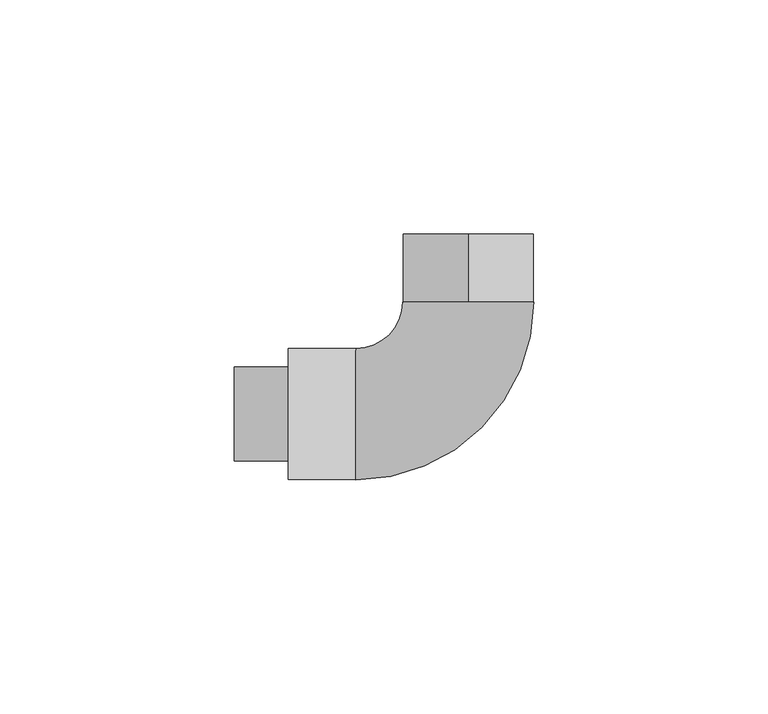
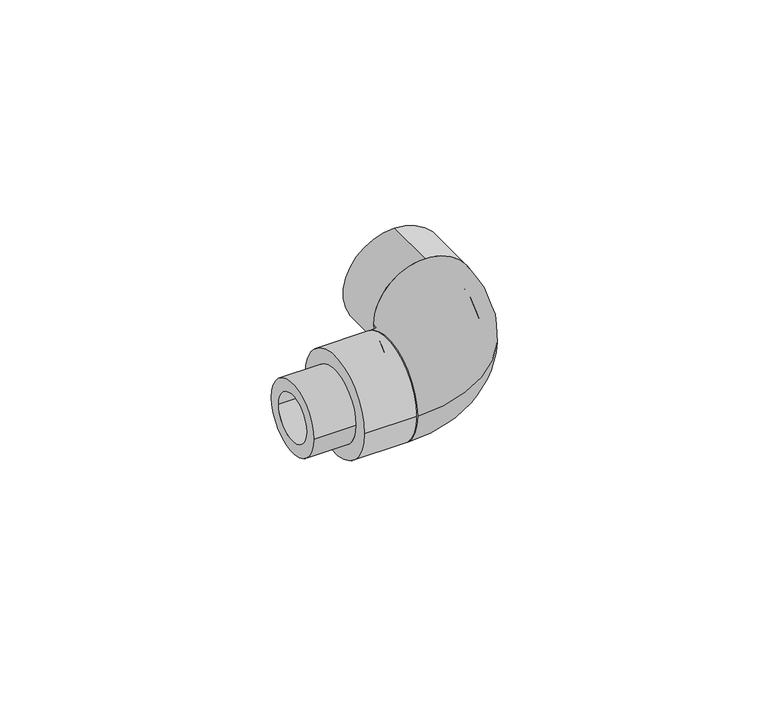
"""IFC4 building model written with IfcOpenShell, lengths in millimetres: pipe fitting geometry, 39_Угольник переходной ВР НР : Серый цвет."""

import ifcopenshell
import ifcopenshell.guid

model = None  # the IFC model being written
_history = None  # IfcOwnerHistory: only IFC2X3 demands one
_inside = {}  # id of a spatial element -> (the spatial element, [elements in it])
_under = {}  # id of a project, library or spatial element -> (it, [spatial elements below it])
_declared = {}  # id of a project -> (the project, [libraries it declares])
_typed = {}  # id of a type object -> (the type object, [elements of that type])
_made_of = {}  # id of a material, layer set ... -> (it, [elements and type objects made of it])


def new_model(schema):
    """Start an empty IFC model of exactly this schema.

    Asked for "IFC4X3", IfcOpenShell would pick the latest addendum, in which some entities
    have other attributes; the version numbers below select the first issue.
    IFC2X3 requires an IfcOwnerHistory on every rooted entity: one is made here for all.
    """
    global model, _history
    if schema == "IFC4X3":
        model = ifcopenshell.file(schema_version=(4, 3, 0, 0))
    else:
        model = ifcopenshell.file(schema=schema)
    _inside.clear()
    _under.clear()
    _declared.clear()
    _typed.clear()
    _made_of.clear()
    _history = None
    if model.schema == "IFC2X3":
        org = make("IfcOrganization", Name="unknown")
        user = make(
            "IfcPersonAndOrganization",
            ThePerson=make("IfcPerson", FamilyName="unknown"),
            TheOrganization=org,
        )
        app = make(
            "IfcApplication",
            ApplicationDeveloper=org,
            Version="unknown",
            ApplicationFullName="unknown",
            ApplicationIdentifier="unknown",
        )
        _history = make(
            "IfcOwnerHistory",
            OwningUser=user,
            OwningApplication=app,
            ChangeAction="ADDED",
            CreationDate=0,
        )
    return model


def make(cls, **values):
    """One entity of the class cls with the attributes given. An attribute that is None is left unset."""
    return model.create_entity(
        cls, **{name: value for name, value in values.items() if value is not None}
    )


def rooted(cls, **values):
    """An entity with a GlobalId (a new one), such as an element, a storey or a relation."""
    return make(cls, GlobalId=ifcopenshell.guid.new(), OwnerHistory=_history, **values)


def si_unit(unit_type, name, prefix=None):
    """IfcSIUnit, for example si_unit("LENGTHUNIT", "METRE", prefix="MILLI")."""
    return make("IfcSIUnit", UnitType=unit_type, Prefix=prefix, Name=name)


def assignment(units):
    """IfcUnitAssignment: the units of a project."""
    return None if units is None else make("IfcUnitAssignment", Units=units)


def point(xyz):
    """IfcCartesianPoint."""
    return None if xyz is None else make("IfcCartesianPoint", Coordinates=xyz)


def direction(xyz):
    """IfcDirection."""
    return None if xyz is None else make("IfcDirection", DirectionRatios=xyz)


def frame(location, z_axis=None, x_axis=None):
    """IfcAxis2Placement3D, a coordinate frame: its origin and axes. An axis left out is left unset."""
    return make(
        "IfcAxis2Placement3D",
        Location=point(location),
        Axis=direction(z_axis),
        RefDirection=direction(x_axis),
    )


def frame_2d(location, x_axis=None):
    """IfcAxis2Placement2D, a coordinate frame in the plane: its origin and x axis."""
    return make(
        "IfcAxis2Placement2D", Location=point(location), RefDirection=direction(x_axis)
    )


def origin():
    """The frame at (0, 0, 0) with its axes left unset."""
    return frame((0.0, 0.0, 0.0))


def place(relative_to, where):
    """IfcLocalPlacement: puts the frame where relative to a parent placement (None: the world)."""
    return make(
        "IfcLocalPlacement", PlacementRelTo=relative_to, RelativePlacement=where
    )


def context(
    kind, dimensions, precision=None, world=None, true_north=None, identifier=None
):
    """IfcGeometricRepresentationContext, for example the 3D "Model" context."""
    return make(
        "IfcGeometricRepresentationContext",
        ContextIdentifier=identifier,
        ContextType=kind,
        CoordinateSpaceDimension=dimensions,
        Precision=precision,
        WorldCoordinateSystem=world,
        TrueNorth=true_north,
    )


def project(units=None, contexts=None):
    """IfcProject with its units and contexts."""
    return rooted(
        "IfcProject",
        Name="project",
        RepresentationContexts=contexts,
        UnitsInContext=assignment(units),
    )


def spatial(cls, under=None, at=None, **own):
    """A site, building, storey or space (cls), placed at a placement, below another one or the project."""
    s = rooted(cls, ObjectPlacement=at, **own)
    if under is not None:
        _under.setdefault(under.id(), (under, []))[1].append(s)
    return s


def circle_curve(where, radius):
    """IfcCircle in the frame where."""
    return make("IfcCircle", Position=where, Radius=radius)


def ellipse_curve(where, semi_axis1, semi_axis2):
    """IfcEllipse in the frame where."""
    return make(
        "IfcEllipse", Position=where, SemiAxis1=semi_axis1, SemiAxis2=semi_axis2
    )


def trimmed(basis, trim1, trim2, sense, master):
    """IfcTrimmedCurve: the piece of a basis curve between two trims."""
    return make(
        "IfcTrimmedCurve",
        BasisCurve=basis,
        Trim1=trim1,
        Trim2=trim2,
        SenseAgreement=sense,
        MasterRepresentation=master,
    )


def segment(curve, same_sense, transition):
    """IfcCompositeCurveSegment."""
    return make(
        "IfcCompositeCurveSegment",
        Transition=transition,
        SameSense=same_sense,
        ParentCurve=curve,
    )


def composite_curve(segments, self_intersect=None):
    """IfcCompositeCurve: segments joined end to end."""
    return make("IfcCompositeCurve", Segments=segments, SelfIntersect=self_intersect)


def outline(outer, holes=None, kind="AREA"):
    """IfcArbitraryClosedProfileDef: a profile drawn as a closed curve; with holes, ...WithVoids."""
    if holes is None:
        return make("IfcArbitraryClosedProfileDef", ProfileType=kind, OuterCurve=outer)
    return make(
        "IfcArbitraryProfileDefWithVoids",
        ProfileType=kind,
        OuterCurve=outer,
        InnerCurves=holes,
    )


def extrude(swept, where, along, depth):
    """IfcExtrudedAreaSolid: the profile swept, set in the frame where, extruded along a direction by depth."""
    return make(
        "IfcExtrudedAreaSolid",
        SweptArea=swept,
        Position=where,
        ExtrudedDirection=direction(along),
        Depth=depth,
    )


def shape(context_of_items, identifier, shape_type, items):
    """IfcShapeRepresentation: the items that make up one representation, for example the "Body"."""
    return make(
        "IfcShapeRepresentation",
        ContextOfItems=context_of_items,
        RepresentationIdentifier=identifier,
        RepresentationType=shape_type,
        Items=items,
    )


def source(mapping_origin, context_of_items, identifier, shape_type, items):
    """IfcRepresentationMap: a shape defined once, which mapped items show again and again."""
    return make(
        "IfcRepresentationMap",
        MappingOrigin=mapping_origin,
        MappedRepresentation=shape(context_of_items, identifier, shape_type, items),
    )


def transform(
    local_origin,
    x_axis=None,
    y_axis=None,
    z_axis=None,
    scale=None,
    scale2=None,
    scale3=None,
    uniform=True,
):
    """IfcCartesianTransformationOperator3D, or its non-uniform kind. x_axis, y_axis, z_axis: its Axis1, 2, 3."""
    if uniform:
        return make(
            "IfcCartesianTransformationOperator3D",
            Axis1=direction(x_axis),
            Axis2=direction(y_axis),
            LocalOrigin=point(local_origin),
            Scale=scale,
            Axis3=direction(z_axis),
        )
    return make(
        "IfcCartesianTransformationOperator3DnonUniform",
        Axis1=direction(x_axis),
        Axis2=direction(y_axis),
        LocalOrigin=point(local_origin),
        Scale=scale,
        Axis3=direction(z_axis),
        Scale2=scale2,
        Scale3=scale3,
    )


def mapped(mapping_source, mapping_target):
    """IfcMappedItem: shows the shape of a source again, moved by a transform."""
    return make(
        "IfcMappedItem", MappingSource=mapping_source, MappingTarget=mapping_target
    )


def made_of(thing, what):
    """Note that an element or type object is made of a material, layer set ...; save() writes the relation."""
    if what is not None:
        _made_of.setdefault(what.id(), (what, []))[1].append(thing)
    return thing


def element(
    cls,
    number,
    at=None,
    inside=None,
    cuts=None,
    type_object=None,
    material=None,
    context=None,
    identifier="Body",
    shape_type=None,
    held_by="IfcProductDefinitionShape",
    body=None,
    shapes=None,
    **own,
):
    """One element of the class cls, such as IfcWall. Its Tag is "e" and its number.

    at: its placement. inside: the storey or other place that contains it. cuts: it is an
    opening in that element (IfcRelVoidsElement). A single representation is given by context,
    identifier, shape_type and body (its items); several are given by shapes. held_by: the class
    of the entity that holds the representations. save() writes the other relations.
    """
    e = rooted(cls, Tag="e%d" % number, ObjectPlacement=at, **own)
    if body is not None:
        shapes = [shape(context, identifier, shape_type, body)]
    if shapes is not None:
        e.Representation = make(held_by, Representations=shapes)
    if inside is not None:
        _inside.setdefault(inside.id(), (inside, []))[1].append(e)
    if cuts is not None:
        rooted(
            "IfcRelVoidsElement", RelatingBuildingElement=cuts, RelatedOpeningElement=e
        )
    if type_object is not None:
        _typed.setdefault(type_object.id(), (type_object, []))[1].append(e)
    return made_of(e, material)


def aggregate(whole, parts):
    """IfcRelAggregates: a whole, such as a stair, and the parts it consists of."""
    return rooted("IfcRelAggregates", RelatingObject=whole, RelatedObjects=parts)


def save(model, path):
    """Write the relations noted so far, then the file.

    IfcRelAggregates (storeys below a building ...), IfcRelContainedInSpatialStructure (elements
    in a storey), IfcRelDefinesByType, IfcRelAssociatesMaterial and IfcRelDeclares: one each for
    every whole, place, type object, material and project.
    """
    for whole, parts in _under.values():
        aggregate(whole, parts)
    for where, things in _inside.values():
        rooted(
            "IfcRelContainedInSpatialStructure",
            RelatedElements=things,
            RelatingStructure=where,
        )
    for kind, things in _typed.values():
        rooted("IfcRelDefinesByType", RelatedObjects=things, RelatingType=kind)
    for what, things in _made_of.values():
        rooted("IfcRelAssociatesMaterial", RelatedObjects=things, RelatingMaterial=what)
    for by, libraries in _declared.values():
        rooted("IfcRelDeclares", RelatingContext=by, RelatedDefinitions=libraries)
    model.write(path)


def plane_surface(at):
    """IfcPlane: the flat surface through the origin of the frame at, square to its z axis."""
    return make("IfcPlane", Position=at)


def revolved_surface(curve, axis_point, axis_direction):
    """IfcSurfaceOfRevolution: the curve turned about the line through axis_point along axis_direction."""
    return make(
        "IfcSurfaceOfRevolution",
        SweptCurve=make("IfcArbitraryOpenProfileDef", ProfileType="CURVE", Curve=curve),
        AxisPosition=make("IfcAxis1Placement", Location=point(axis_point), Axis=direction(axis_direction)),
    )


def advanced_brep(points, edges, surfaces, faces):
    """IfcAdvancedBrep: a solid bounded by faces that lie on surfaces and meet in shared edges.

    An edge is (start, end): straight between two places in points (the first is 0);
    or (start, end, curve); or (start, end, curve, False) where it runs against its curve.
    A face is (place in surfaces, loops), or (place, loops, False) where it looks against
    its surface's normal. A loop lists edges by number (the first is 1), with a minus sign
    where the edge is run from its end to its start. The first loop is the outer one.
    """
    corners = [point(p) for p in points]
    vertices = [make("IfcVertexPoint", VertexGeometry=c) for c in corners]
    made = []
    for start, end, *more in edges:
        made.append(
            make(
                "IfcEdgeCurve",
                EdgeStart=vertices[start],
                EdgeEnd=vertices[end],
                EdgeGeometry=more[0] if more else make("IfcPolyline", Points=[corners[start], corners[end]]),
                SameSense=more[1] if len(more) > 1 else True,
            )
        )
    hull = []
    for where, loops, *sense in faces:
        bounds = []
        for j, loop in enumerate(loops):
            ring = [make("IfcOrientedEdge", EdgeElement=made[abs(k) - 1], Orientation=k > 0) for k in loop]
            bounds.append(
                make(
                    "IfcFaceOuterBound" if j == 0 else "IfcFaceBound",
                    Bound=make("IfcEdgeLoop", EdgeList=ring),
                    Orientation=True,
                )
            )
        hull.append(make("IfcAdvancedFace", Bounds=bounds, FaceSurface=surfaces[where], SameSense=sense[0] if sense else True))
    return make("IfcAdvancedBrep", Outer=make("IfcClosedShell", CfsFaces=hull))


def pipe_fitting_92d6d59a(model_context):
    return source(origin(), model_context, "Body", "SolidModel", [
        extrude(outline(composite_curve([segment(trimmed(circle_curve(frame_2d((0.05, 0.0)), 10.0), [point((-9.95, 0.0))], [point((10.05, 0.0))], False, "CARTESIAN"), True, "CONTINUOUS"), segment(trimmed(circle_curve(frame_2d((0.05, 0.0)), 10.0), [point((10.05, 0.0))], [point((-9.95, 0.0))], False, "CARTESIAN"), True, "CONTINUOUS")], self_intersect=False), holes=[composite_curve([segment(trimmed(circle_curve(frame_2d((0.05, 0.0)), 6.6), [point((-6.55, 0.0))], [point((6.65, 0.0))], True, "CARTESIAN"), True, "CONTINUOUS"), segment(trimmed(circle_curve(frame_2d((0.05, 0.0)), 6.6), [point((6.65, 0.0))], [point((-6.55, 0.0))], True, "CARTESIAN"), True, "CONTINUOUS")], self_intersect=False)]), frame((-46.35, 0.0, 0.0), z_axis=(1.0, 0.0, 0.0), x_axis=(0.0, 1.0, 0.0)), (0.0, 0.0, 1.0), 11.5),
        advanced_brep(
        [(-10.35, 24.0, 0.0), (17.65, 24.0, 0.0), (-6.35, 24.0, 0.0), (13.65, 24.0, 0.0), (-20.35, 14.0, 0.0), (-20.35, -14.0, 0.0), (-20.35, 10.0, 0.0), (-20.35, -10.0, 0.0)],
        [
            (0, 1, circle_curve(frame((3.65, 24.0, 0.0), z_axis=(0.0, 1.0, 0.0), x_axis=(1.0, 0.0, 0.0)), 14.0)),
            (1, 0, circle_curve(frame((3.65, 24.0, 0.0), z_axis=(0.0, 1.0, 0.0), x_axis=(1.0, 0.0, 0.0)), 14.0)),
            (2, 3, circle_curve(frame((3.65, 24.0, 0.0), z_axis=(0.0, -1.0, 0.0), x_axis=(1.0, 0.0, 0.0)), 10.0)),
            (3, 2, circle_curve(frame((3.65, 24.0, 0.0), z_axis=(0.0, -1.0, 0.0), x_axis=(1.0, 0.0, 0.0)), 10.0)),
            (4, 5, circle_curve(frame((-20.35, 0.0, 0.0), z_axis=(-1.0, 0.0, 0.0), x_axis=(0.0, -1.0, 0.0)), 14.0)),
            (5, 4, circle_curve(frame((-20.35, 0.0, 0.0), z_axis=(-1.0, 0.0, 0.0), x_axis=(0.0, -1.0, 0.0)), 14.0)),
            (6, 7, circle_curve(frame((-20.35, 0.0, 0.0), z_axis=(1.0, 0.0, 0.0), x_axis=(0.0, -1.0, 0.0)), 10.0)),
            (7, 6, circle_curve(frame((-20.35, 0.0, 0.0), z_axis=(1.0, 0.0, 0.0), x_axis=(0.0, -1.0, 0.0)), 10.0)),
            (5, 1, circle_curve(frame((-20.35, 24.0, 0.0), z_axis=(0.0, 0.0, 1.0), x_axis=(1.0, 0.0, 0.0)), 38.0)),
            (0, 4, circle_curve(frame((-20.35, 24.0, 0.0), z_axis=(0.0, 0.0, -1.0), x_axis=(1.0, 0.0, 0.0)), 10.0)),
            (7, 3, circle_curve(frame((-20.35, 24.0, 0.0), z_axis=(0.0, 0.0, 1.0), x_axis=(1.0, 0.0, 0.0)), 34.0)),
            (2, 6, circle_curve(frame((-20.35, 24.0, 0.0), z_axis=(0.0, 0.0, -1.0), x_axis=(1.0, 0.0, 0.0)), 14.0)),
        ],
        [
            plane_surface(frame((3.65, 24.0, 0.0), z_axis=(0.0, 1.0, 0.0), x_axis=(0.0, 0.0, 1.0))),
            plane_surface(frame((-20.35, 0.0, 0.0), z_axis=(-1.0, 0.0, 0.0), x_axis=(0.0, 0.0, 1.0))),
            revolved_surface(trimmed(ellipse_curve(frame((3.65, 24.0, 0.0), z_axis=(0.0, 1.0, 0.0), x_axis=(1.0, 0.0, 0.0)), 14.0, 14.0), [point((-10.35, 24.0, 0.0))], [point((17.65, 24.0, 0.0))], True, "CARTESIAN"), (-20.35, 24.0, 0.0), (0.0, 0.0, -1.0)),
            revolved_surface(trimmed(ellipse_curve(frame((3.65, 24.0, 0.0), z_axis=(0.0, 1.0, 0.0), x_axis=(1.0, 0.0, 0.0)), 14.0, 14.0), [point((17.65, 24.0, 0.0))], [point((-10.35, 24.0, 0.0))], True, "CARTESIAN"), (-20.35, 24.0, 0.0), (0.0, 0.0, -1.0)),
            revolved_surface(trimmed(ellipse_curve(frame((3.65, 24.0, 0.0), z_axis=(0.0, -1.0, 0.0), x_axis=(1.0, 0.0, 0.0)), 10.0, 10.0), [point((-6.35, 24.0, 0.0))], [point((13.65, 24.0, 0.0))], True, "CARTESIAN"), (-20.35, 24.0, 0.0), (0.0, 0.0, -1.0)),
            revolved_surface(trimmed(ellipse_curve(frame((3.65, 24.0, 0.0), z_axis=(0.0, -1.0, 0.0), x_axis=(1.0, 0.0, 0.0)), 10.0, 10.0), [point((13.65, 24.0, 0.0))], [point((-6.35, 24.0, 0.0))], True, "CARTESIAN"), (-20.35, 24.0, 0.0), (0.0, 0.0, -1.0)),
        ],
        [
            (0, [[1, 2], [3, 4]]),
            (1, [[5, 6], [7, 8]]),
            (2, [[9, -1, 10, -6]]),
            (3, [[-10, -2, -9, -5]]),
            (4, [[11, -3, 12, -8]]),
            (5, [[-12, -4, -11, -7]]),
        ],
    ),
        extrude(outline(composite_curve([segment(trimmed(circle_curve(frame_2d((0.0, 3.65)), 14.0), [point((-14.0, 3.65))], [point((14.0, 3.65))], False, "CARTESIAN"), True, "CONTINUOUS"), segment(trimmed(circle_curve(frame_2d((0.0, 3.65)), 14.0), [point((14.0, 3.65))], [point((-14.0, 3.65))], False, "CARTESIAN"), True, "CONTINUOUS")], self_intersect=False), holes=[composite_curve([segment(trimmed(circle_curve(frame_2d((0.0, 3.65)), 10.0), [point((-10.0, 3.65))], [point((10.0, 3.65))], True, "CARTESIAN"), True, "CONTINUOUS"), segment(trimmed(circle_curve(frame_2d((0.0, 3.65)), 10.0), [point((10.0, 3.65))], [point((-10.0, 3.65))], True, "CARTESIAN"), True, "CONTINUOUS")], self_intersect=False)]), frame((0.0, 24.0, 0.0), z_axis=(0.0, 1.0, 0.0), x_axis=(0.0, 0.0, 1.0)), (0.0, 0.0, 1.0), 14.5),
        extrude(outline(composite_curve([segment(trimmed(circle_curve(frame_2d((0.05, 0.0)), 14.0), [point((-13.95, 0.0))], [point((14.05, 0.0))], False, "CARTESIAN"), True, "CONTINUOUS"), segment(trimmed(circle_curve(frame_2d((0.05, 0.0)), 14.0), [point((14.05, 0.0))], [point((-13.95, 0.0))], False, "CARTESIAN"), True, "CONTINUOUS")], self_intersect=False), holes=[composite_curve([segment(trimmed(circle_curve(frame_2d((0.05, 0.0)), 10.0), [point((-9.95, 0.0))], [point((10.05, 0.0))], True, "CARTESIAN"), True, "CONTINUOUS"), segment(trimmed(circle_curve(frame_2d((0.05, 0.0)), 10.0), [point((10.05, 0.0))], [point((-9.95, 0.0))], True, "CARTESIAN"), True, "CONTINUOUS")], self_intersect=False)]), frame((-34.85, 0.0, 0.0), z_axis=(1.0, 0.0, 0.0), x_axis=(0.0, 1.0, 0.0)), (0.0, 0.0, 1.0), 14.5),
    ])


if __name__ == "__main__":
    model = new_model("IFC4")
    model_context = context("Model", 3, world=origin())
    ifc_project = project(units=[si_unit("LENGTHUNIT", "METRE", prefix="MILLI")], contexts=[model_context])
    site = spatial("IfcSite", under=ifc_project)
    building = spatial("IfcBuilding", under=site)
    placement = place(None, origin())
    pipe_fitting_shape = pipe_fitting_92d6d59a(model_context)
    element("IfcPipeFitting", 1, ObjectType="39_Угольник переходной ВР НР : Серый цвет", at=placement, inside=building, context=model_context, shape_type="MappedRepresentation", body=[
        mapped(pipe_fitting_shape, transform((0.0, 0.0, 0.0), x_axis=(1.0, 0.0, 0.0), y_axis=(0.0, 1.0, 0.0), z_axis=(0.0, 0.0, 1.0))),
    ])
    save(model, "model.ifc")
